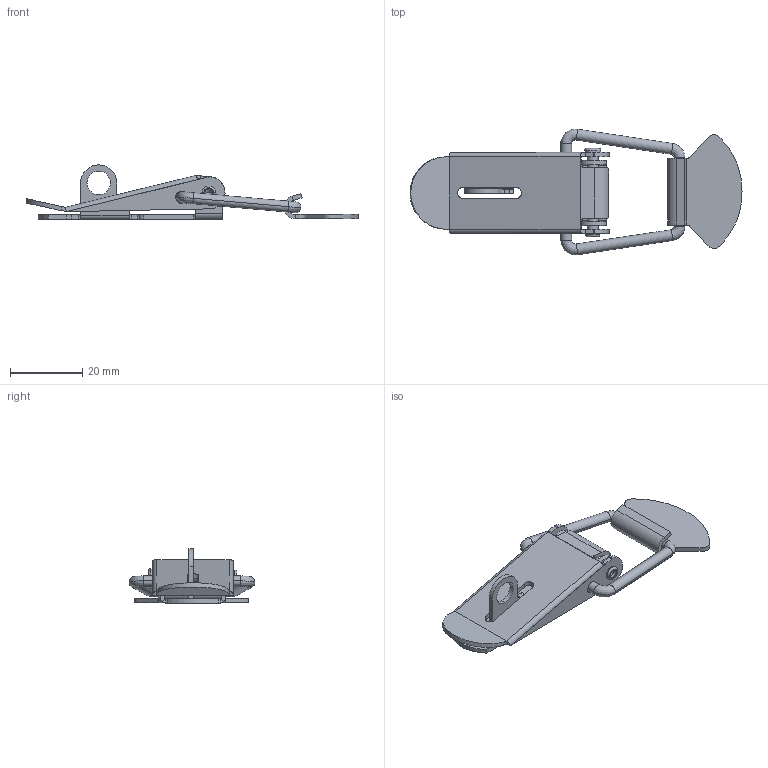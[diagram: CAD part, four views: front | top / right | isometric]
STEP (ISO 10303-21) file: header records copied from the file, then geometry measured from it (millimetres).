
FILE_DESCRIPTION(/* description */ (''),/* implementation_level */ '2;1');
FILE_NAME(/* name */ 'DK503-1',/* time_stamp */ '2025-03-19T15:51:00+08:00',/* author */ (''),/* organization */ (''),/* preprocessor_version */ 'ST-DEVELOPER v19.2',/* originating_system */ 'Rhino 8.5',/* authorisation */ '');
FILE_SCHEMA (('CONFIG_CONTROL_DESIGN'));
Length unit declared in the file: millimetre
Products named in the file (1): Document
Bounding box: 91.87 x 34.84 x 15 mm (x, y, z)
Volume: 1629.3 mm3; surface area: 7706.4 mm2
Topology: 3 solids, 5 shells, 175 faces, 435 edges, 261 vertices
Faces by surface type: plane 81, cylinder 74, bspline 20
Entity records: 6422 total; most frequent: CARTESIAN_POINT 2777, ORIENTED_EDGE 845, DIRECTION 471, EDGE_CURVE 432, AXIS2_PLACEMENT_3D 313, VERTEX_POINT 261, B_SPLINE_CURVE_WITH_KNOTS 197, EDGE_LOOP 194
